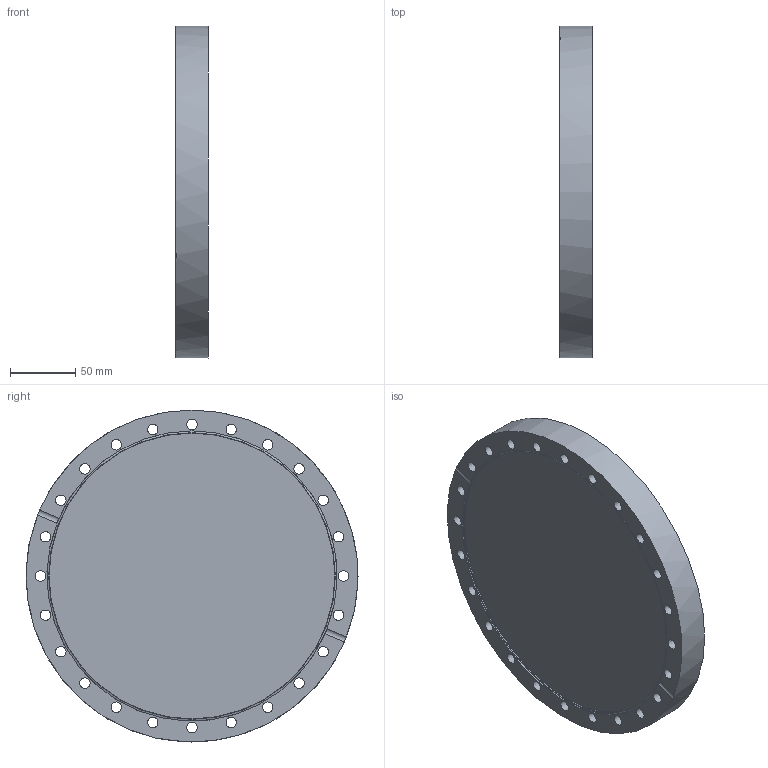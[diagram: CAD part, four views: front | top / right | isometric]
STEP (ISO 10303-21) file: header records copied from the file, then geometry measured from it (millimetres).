
FILE_DESCRIPTION( ( 'Unknown' ), '1' );
FILE_NAME( 'X:/Daten ( aktueller Bestand )/Projekte und Zeichnungen/Solid Edge/STP-Dateien/CF-Teile/7426FG4.stp', 'Unknown', ( 'Unknown' ), ( 'Unknown' ), 'PSStep 14.0', 'Unknown', ' ' );
FILE_SCHEMA( ( 'AUTOMOTIVE_DESIGN { 1 0 10303 214 1 1 1 1 }' ) );
Length unit declared in the file: millimetre
Products named in the file (2): Assem1; 1_4
Assembly tree (1 placements, depth 2):
  Assem1
    1_4
Bounding box: 24.6 x 254 x 254 mm (x, y, z)
Volume: 1167035.4 mm3; surface area: 134545 mm2
Topology: 1 solids, 1 shells, 34 faces, 118 edges, 86 vertices
Faces by surface type: cylinder 28, plane 4, cone 2
Full cylindrical faces by diameter (mm): 8 x24, 222 x1, 254 x1
Entity records: 1426 total; most frequent: CARTESIAN_POINT 228, DIRECTION 188, ORIENTED_EDGE 128, EDGE_LOOP 110, AXIS2_PLACEMENT_3D 92, EDGE_CURVE 64, FACE_OUTER_BOUND 60, VERTEX_POINT 60
